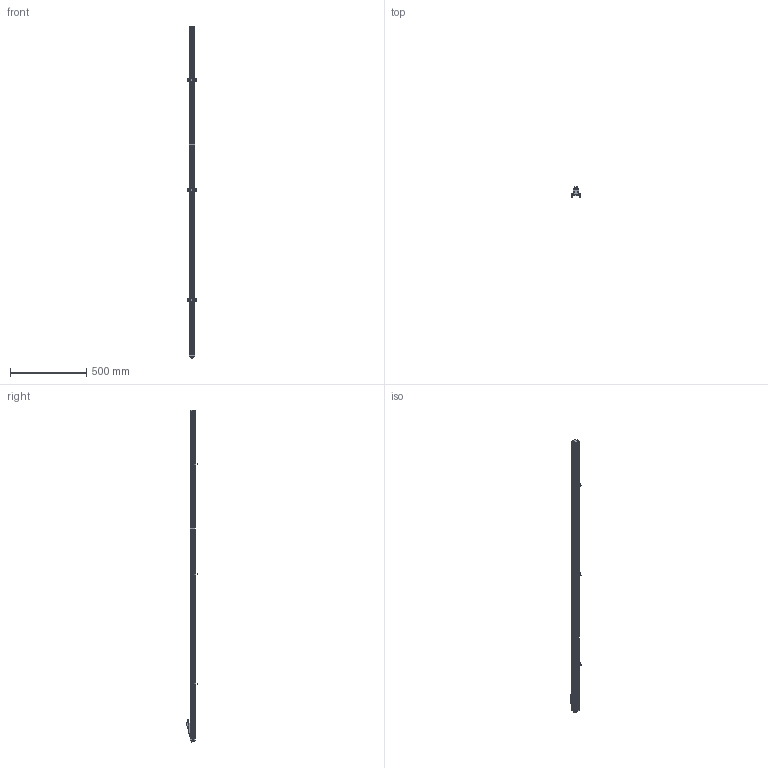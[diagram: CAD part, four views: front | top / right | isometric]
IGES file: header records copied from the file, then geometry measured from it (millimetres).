
Start section: SolidWorks IGES file using analytic representation for surfaces
Global section: file name: E:\Signorello\TLH\TLH Bearbeitet\TLH_2000.IGS; native system: SolidWorks 2009; preprocessor: SolidWorks 2009; author: Signorello_A; date: 100506.090028; units: millimetre
Bounding box: 65 x 70.2 x 2180 mm (x, y, z)
Surface area: 528652.6 mm2 (no closed solid volume)
Topology: 0 solids, 0 shells, 1357 faces, 15152 edges, 15122 vertices
Faces by surface type: bspline 788, revolution 569
